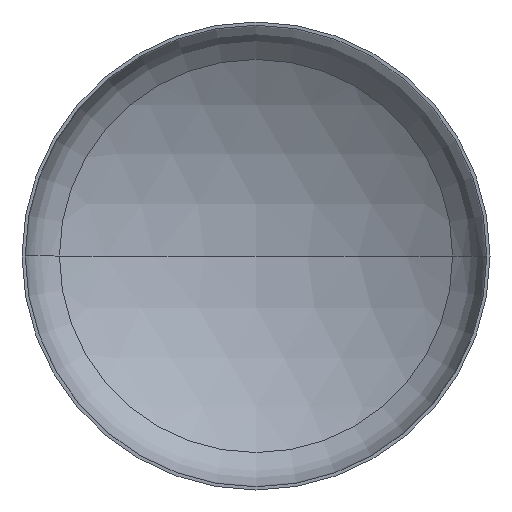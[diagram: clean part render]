
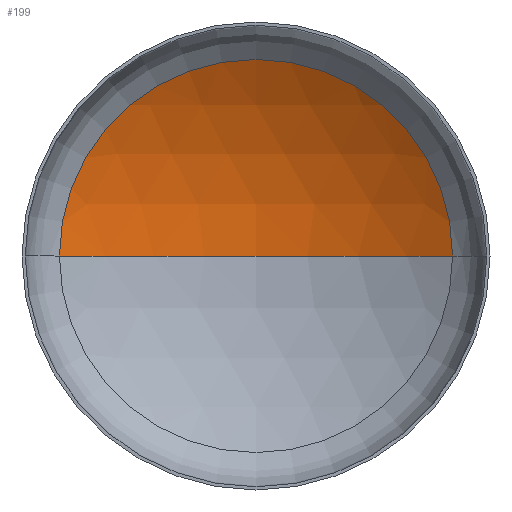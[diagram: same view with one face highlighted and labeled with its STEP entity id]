
A CAD part, front view. The second image highlights one B-rep face of the part: STEP entity #199.
In plain terms, the highlighted spherical face has radius 2080 mm.
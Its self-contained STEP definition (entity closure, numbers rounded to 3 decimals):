
#16 = EDGE_LOOP ( 'NONE', ( #130, #83, #125 ) ) ;
#18 = AXIS2_PLACEMENT_3D ( 'NONE', #227, #279, #246 ) ;
#25 = AXIS2_PLACEMENT_3D ( 'NONE', #349, #299, #112 ) ;
#28 = AXIS2_PLACEMENT_3D ( 'NONE', #387, #56, #45 ) ;
#32 = AXIS2_PLACEMENT_3D ( 'NONE', #370, #235, #390 ) ;
#45 = DIRECTION ( 'NONE',  ( -1., 0., 0. ) ) ;
#56 = DIRECTION ( 'NONE',  ( 0., 0., -1. ) ) ;
#77 = VERTEX_POINT ( 'NONE', #325 ) ;
#83 = ORIENTED_EDGE ( 'NONE', *, *, #93, .T. ) ;
#91 = EDGE_CURVE ( 'NONE', #128, #394, #197, .T. ) ;
#93 = EDGE_CURVE ( 'NONE', #77, #128, #101, .T. ) ;
#94 = EDGE_CURVE ( 'NONE', #77, #394, #264, .T. ) ;
#101 = CIRCLE ( 'NONE', #28, 2080. ) ;
#112 = DIRECTION ( 'NONE',  ( 1., 0., 0. ) ) ;
#125 = ORIENTED_EDGE ( 'NONE', *, *, #91, .T. ) ;
#127 = CARTESIAN_POINT ( 'NONE',  ( -1092., 395.441, 0. ) ) ;
#128 = VERTEX_POINT ( 'NONE', #206 ) ;
#130 = ORIENTED_EDGE ( 'NONE', *, *, #94, .F. ) ;
#197 = CIRCLE ( 'NONE', #32, 1092. ) ;
#199 = ADVANCED_FACE ( 'NONE', ( #248 ), #257, .F. ) ;
#206 = CARTESIAN_POINT ( 'NONE',  ( 1092., 395.441, 0. ) ) ;
#227 = CARTESIAN_POINT ( 'NONE',  ( 0., -1374.852, 0. ) ) ;
#235 = DIRECTION ( 'NONE',  ( 0., -1., 0. ) ) ;
#246 = DIRECTION ( 'NONE',  ( -1., 0., 0. ) ) ;
#248 = FACE_OUTER_BOUND ( 'NONE', #16, .T. ) ;
#257 = SPHERICAL_SURFACE ( 'NONE', #18, 2080. ) ;
#264 = CIRCLE ( 'NONE', #25, 2080. ) ;
#279 = DIRECTION ( 'NONE',  ( 0., 0., -1. ) ) ;
#299 = DIRECTION ( 'NONE',  ( 0., 0., 1. ) ) ;
#325 = CARTESIAN_POINT ( 'NONE',  ( 0., 705.148, 0. ) ) ;
#349 = CARTESIAN_POINT ( 'NONE',  ( 0., -1374.852, 0. ) ) ;
#370 = CARTESIAN_POINT ( 'NONE',  ( 0., 395.441, 0. ) ) ;
#387 = CARTESIAN_POINT ( 'NONE',  ( 0., -1374.852, 0. ) ) ;
#390 = DIRECTION ( 'NONE',  ( 1., 0., 0. ) ) ;
#394 = VERTEX_POINT ( 'NONE', #127 ) ;
